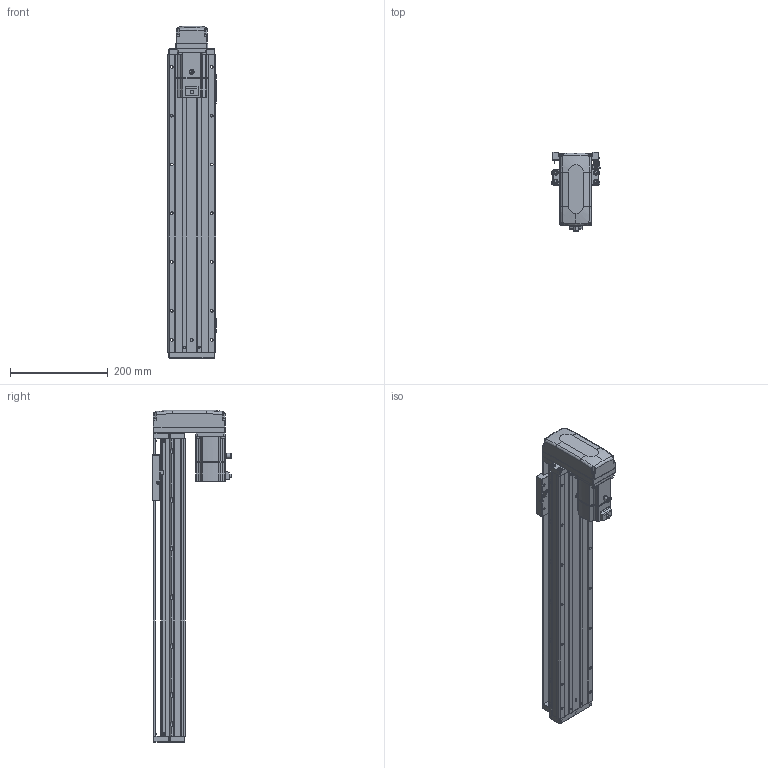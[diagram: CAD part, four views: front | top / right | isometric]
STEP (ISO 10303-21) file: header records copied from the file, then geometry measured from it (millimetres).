
FILE_DESCRIPTION (( 'STEP AP203' ), '1' );
FILE_NAME ('KTHA100-450-BM-M20-C4L.step', '2022-04-26T01:53:09', ( '微软用户' ), ( '微软中国' ), 'SwSTEP 2.0', 'SolidWorks 2020', '' );
FILE_SCHEMA (( 'CONFIG_CONTROL_DESIGN' ));
Length unit declared in the file: millimetre
Products named in the file (17): KTHA100-002; GBT77-2000 M3×3; CTHA86-033; KTHA100-004; GBT 70.1-M3℅6; KTHA100-450-BM-M20-C4L; KTHA100-005; GBT70.1 M5℅16; GB¨uT 70.2-M3¡Á5_M3¡Á6; CTHA60-016; EE_SX911P_R; GBT 70.3-M3℅6; CTHA60-017; _X2_4E0983F1_X0_200W_1; KTHA100-001_610; CTHA60-021; CTHA86-015-1_CTHA86-015-2
Assembly tree (57 placements, depth 2):
  KTHA100-450-BM-M20-C4L
    KTHA100-001_610
    KTHA100-002
    KTHA100-004
    KTHA100-005
    GB¨uT 70.2-M3¡Á5_M3¡Á6  x6
    EE_SX911P_R  x3
    CTHA60-017  x3
    CTHA60-021  x2
    GBT77-2000 M3×3  x6
    GBT 70.1-M3℅6  x10
    GBT70.1 M5℅16  x14
    CTHA60-016  x2
    GBT 70.3-M3℅6  x4
    _X2_4E0983F1_X0_200W_1
    CTHA86-015-1_CTHA86-015-2
    CTHA86-033
Bounding box: 98.82 x 163.2 x 681 mm (x, y, z)
Volume: 3158514.8 mm3; surface area: 519997.4 mm2
Topology: 60 solids, 60 shells, 2417 faces, 5777 edges, 3580 vertices
Faces by surface type: plane 1232, cylinder 671, cone 307, torus 116, bspline 75, sphere 16
Entity records: 41302 total; most frequent: CARTESIAN_POINT 8336, DIRECTION 6382, ORIENTED_EDGE 6166, EDGE_CURVE 3083, AXIS2_PLACEMENT_3D 2234, VERTEX_POINT 1940, VECTOR 1914, LINE 1914
